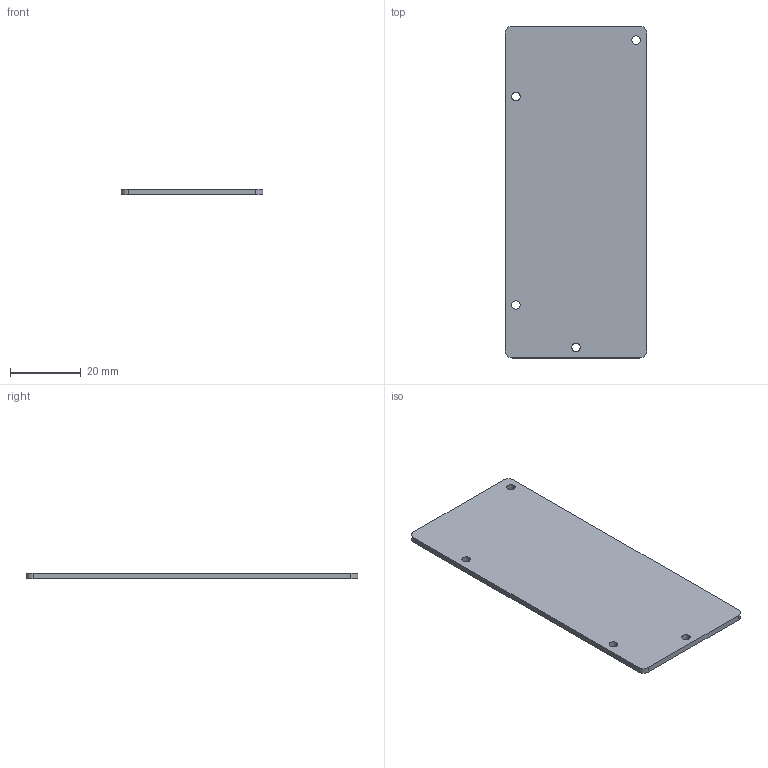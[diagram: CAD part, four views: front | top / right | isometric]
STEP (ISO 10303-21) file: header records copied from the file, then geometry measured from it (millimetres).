
FILE_DESCRIPTION(('Open CASCADE Model'),'2;1');
FILE_NAME('Open CASCADE Shape Model','2026-09-10T00:40:45',('Author'),( 'Open CASCADE'),'Open CASCADE STEP processor 7.8','Open CASCADE 7.8' ,'Unknown');
FILE_SCHEMA(('AUTOMOTIVE_DESIGN { 1 0 10303 214 1 1 1 1 }'));
Length unit declared in the file: millimetre
Products named in the file (1): Open CASCADE STEP translator 7.8 3
Bounding box: 40 x 94 x 1.6 mm (x, y, z)
Volume: 5981.6 mm3; surface area: 7948.5 mm2
Topology: 1 solids, 1 shells, 14 faces, 36 edges, 24 vertices
Faces by surface type: cylinder 8, plane 6
Full cylindrical faces by diameter (mm): 2.4 x4
Entity records: 928 total; most frequent: DIRECTION 152, CARTESIAN_POINT 149, LINE 74, VECTOR 74, ORIENTED_EDGE 72, PCURVE 72, DEFINITIONAL_REPRESENTATION 72, EDGE_CURVE 36
